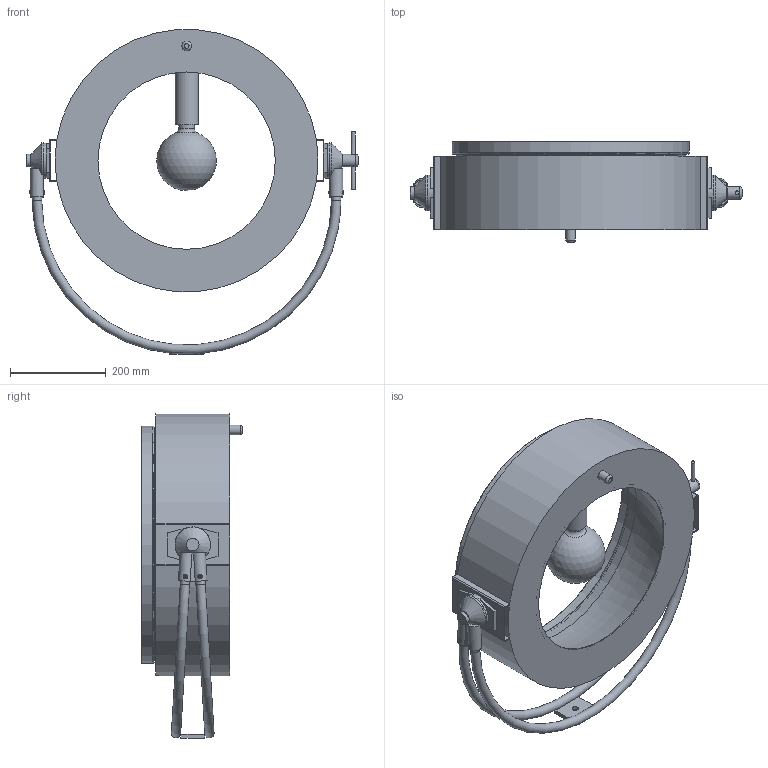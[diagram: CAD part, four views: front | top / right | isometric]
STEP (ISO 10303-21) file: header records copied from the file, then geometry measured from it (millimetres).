
FILE_DESCRIPTION(/* description */ ('Unknown'),/* implementation_level */ '2;1');
FILE_NAME(/* name */ '3D_holyPATT',/* time_stamp */ '2023-08-22T12:24:31+02:00',/* author */ ('Unknown'),/* organization */ ('Unknown'),/* preprocessor_version */ 'ST-DEVELOPER v18.104',/* originating_system */ 'Solid Edge',/* authorisation */ 'Unknown');
FILE_SCHEMA (('AUTOMOTIVE_DESIGN {1 0 10303 214 3 1 1}'));
Length unit declared in the file: millimetre
Products named in the file (3): Sestava5; 3D_holyPATT; 3D_holyPATT_zaves
Assembly tree (2 placements, depth 2):
  Sestava5
    3D_holyPATT
    3D_holyPATT_zaves
Bounding box: 694.9 x 211 x 679.44 mm (x, y, z)
Volume: 15381196.2 mm3; surface area: 1276205.8 mm2
Topology: 14 solids, 14 shells, 230 faces, 515 edges, 339 vertices
Faces by surface type: plane 105, cylinder 92, torus 26, cone 6, sphere 1
Full cylindrical faces by diameter (mm): 3 x8, 5 x16, 5.2 x8, 8 x2, 9.5 x8, 12.5 x2, 13 x1, 17.5 x4, 19.2 x4, 19.5 x4, 20 x1, 23 x2, 26.4 x2, 28 x2, 33 x1, 42 x2, 48.5 x1, 55 x1, 74 x2, 371.2 x1, 493.5 x1, 496.5 x1
Entity records: 7621 total; most frequent: CARTESIAN_POINT 2840, DIRECTION 970, ORIENTED_EDGE 732, EDGE_LOOP 428, FACE_BOUND 428, AXIS2_PLACEMENT_3D 420, EDGE_CURVE 366, VERTEX_POINT 302
